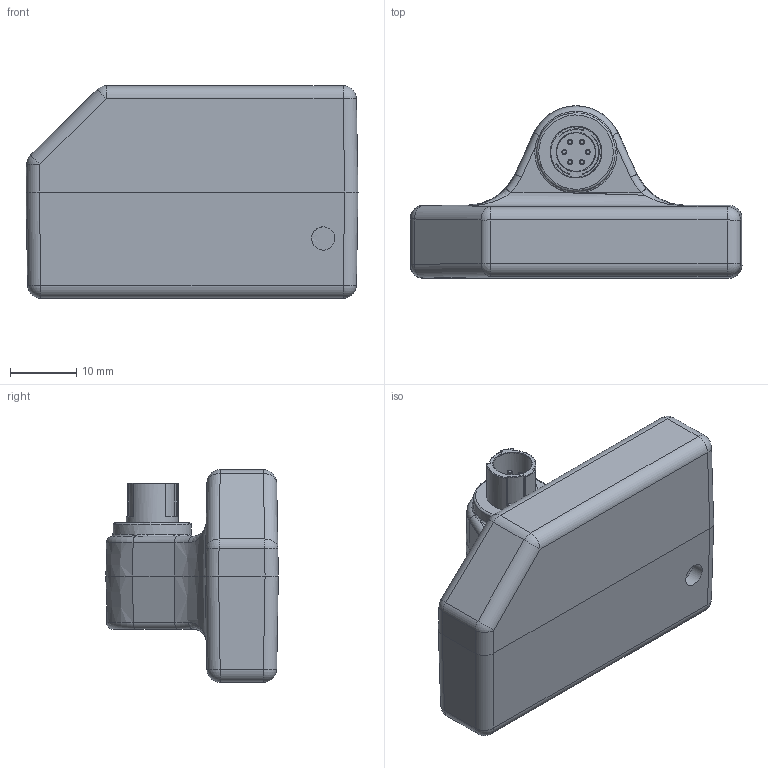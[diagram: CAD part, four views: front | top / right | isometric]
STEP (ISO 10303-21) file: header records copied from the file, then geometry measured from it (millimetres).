
FILE_DESCRIPTION(/* description */ (''),/* implementation_level */ '2;1');
FILE_NAME(/* name */ 'LA-9936-0622 WIRELESS MODULE.stp',/* time_stamp */ '2021-03-18T13:36:09+00:00',/* author */ (''),/* organization */ (''),/* preprocessor_version */ 'ST-DEVELOPER v16.7',/* originating_system */ 'SIEMENS PLM Software NX 1942',/* authorisation */ '');
FILE_SCHEMA (('AUTOMOTIVE_DESIGN { 1 0 10303 214 3 1 1 1 }'));
Length unit declared in the file: millimetre
Products named in the file (1): LA-9936-0622-A_WIRELESS MODULE
Bounding box: 50 x 26 x 32 mm (x, y, z)
Volume: 19928.8 mm3; surface area: 5376.6 mm2
Topology: 1 solids, 1 shells, 140 faces, 306 edges, 163 vertices
Faces by surface type: cylinder 50, plane 36, torus 25, sphere 16, bspline 7, cone 6
Full cylindrical faces by diameter (mm): 0.759 x6, 3.5 x1, 5.8 x1, 7.8 x1, 11.8 x1
Entity records: 4749 total; most frequent: CARTESIAN_POINT 1856, ORIENTED_EDGE 540, DIRECTION 384, EDGE_CURVE 270, B_SPLINE_CURVE_WITH_KNOTS 211, AXIS2_PLACEMENT_3D 191, EDGE_LOOP 167, VERTEX_POINT 159
